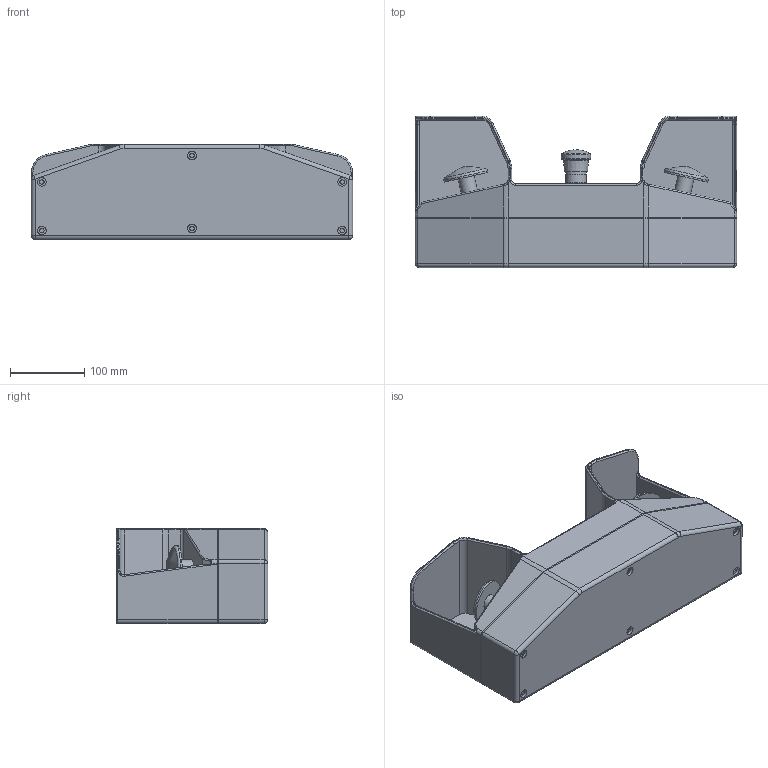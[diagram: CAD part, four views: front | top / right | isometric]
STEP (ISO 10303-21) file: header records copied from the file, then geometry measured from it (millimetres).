
FILE_DESCRIPTION (( 'STEP AP214' ), '1' );
FILE_NAME ('PL7.STEP', '2024-03-25T16:29:56', ( '' ), ( '' ), 'SwSTEP 2.0', 'SolidWorks 2020', '' );
FILE_SCHEMA (( 'AUTOMOTIVE_DESIGN' ));
Length unit declared in the file: millimetre
Products named in the file (8): Emergency_Pushbutton; PL7; xy2sb71__1_3; PL7_Blocco_Comandi; PL7_Base; Emergency_Label; PL7_Guarnizione
Assembly tree (8 placements, depth 3):
  PL7
    PL7_Base
    PL7_Guarnizione
    PL7_Blocco_Comandi
    xy2sb71__1_3  x2
    Emergency_Pushbutton
      Emergency_Label
      Emergency_Pushbutton
Bounding box: 432.5 x 204 x 128 mm (x, y, z)
Volume: 1634380.5 mm3; surface area: 630296.7 mm2
Topology: 7 solids, 7 shells, 639 faces, 1803 edges, 1224 vertices
Faces by surface type: plane 425, cylinder 149, torus 30, bspline 16, cone 13, sphere 6
Full cylindrical faces by diameter (mm): 6 x12, 11.5 x6, 11.7 x1, 18 x1, 20 x1, 21.95 x2, 22 x3, 22.3 x1, 27.2 x1, 28 x1, 28.2 x1, 60 x2, 70 x1
Entity records: 23228 total; most frequent: CARTESIAN_POINT 6493, ORIENTED_EDGE 3434, DIRECTION 3000, EDGE_CURVE 1717, VERTEX_POINT 1193, AXIS2_PLACEMENT_3D 1015, VECTOR 970, LINE 970
